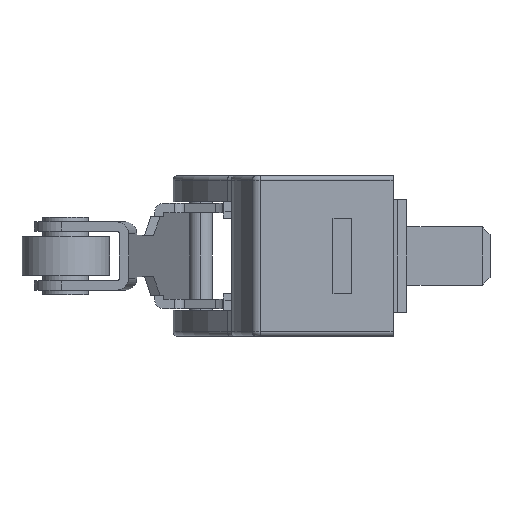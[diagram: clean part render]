
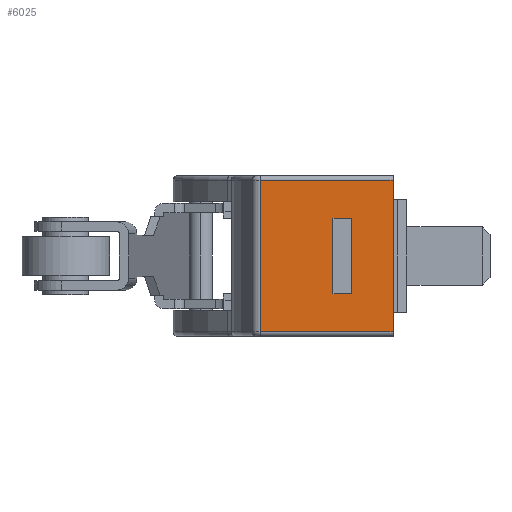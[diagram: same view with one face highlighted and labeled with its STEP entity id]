
A CAD part, left-side view. The second image highlights one B-rep face of the part: STEP entity #6025.
In plain terms, the highlighted planar face has unit normal (-1, 0, 0).
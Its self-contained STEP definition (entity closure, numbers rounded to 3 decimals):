
#1707 = CARTESIAN_POINT ( 'NONE',  ( -35.2, 0.7, 4.1 ) ) ;
#1717 = DIRECTION ( 'NONE',  ( 0., -1., 0. ) ) ;
#1718 = VECTOR ( 'NONE', #1717, 1000. ) ;
#1719 = CARTESIAN_POINT ( 'NONE',  ( -35.2, 2.7, 4.1 ) ) ;
#1720 = LINE ( 'NONE', #1719, #1718 ) ;
#2343 = CARTESIAN_POINT ( 'NONE',  ( -35.2, 2.7, 4.1 ) ) ;
#5995 = ORIENTED_EDGE ( 'NONE', *, *, #5996, .T. ) ;
#5996 = EDGE_CURVE ( 'NONE', #6042, #5997, #14351, .T. ) ;
#5997 = VERTEX_POINT ( 'NONE', #14352 ) ;
#6000 = ORIENTED_EDGE ( 'NONE', *, *, #6017, .F. ) ;
#6001 = ORIENTED_EDGE ( 'NONE', *, *, #6002, .T. ) ;
#6002 = EDGE_CURVE ( 'NONE', #5997, #6429, #14662, .T. ) ;
#6004 = EDGE_CURVE ( 'NONE', #6018, #6007, #15040, .T. ) ;
#6005 = EDGE_CURVE ( 'NONE', #6007, #6024, #15039, .T. ) ;
#6006 = EDGE_CURVE ( 'NONE', #6026, #6018, #15047, .T. ) ;
#6007 = VERTEX_POINT ( 'NONE', #15048 ) ;
#6008 = ORIENTED_EDGE ( 'NONE', *, *, #6006, .T. ) ;
#6016 = EDGE_LOOP ( 'NONE', ( #6022, #6021, #6000, #6008 ) ) ;
#6017 = EDGE_CURVE ( 'NONE', #6026, #6024, #15181, .T. ) ;
#6018 = VERTEX_POINT ( 'NONE', #15183 ) ;
#6021 = ORIENTED_EDGE ( 'NONE', *, *, #6005, .T. ) ;
#6022 = ORIENTED_EDGE ( 'NONE', *, *, #6004, .T. ) ;
#6023 = ORIENTED_EDGE ( 'NONE', *, *, #6353, .T. ) ;
#6024 = VERTEX_POINT ( 'NONE', #15101 ) ;
#6025 = ADVANCED_FACE ( 'NONE', ( #15099, #15328 ), #15327, .F. ) ;
#6026 = VERTEX_POINT ( 'NONE', #15061 ) ;
#6033 = EDGE_LOOP ( 'NONE', ( #6023, #6040, #5995, #6001 ) ) ;
#6040 = ORIENTED_EDGE ( 'NONE', *, *, #6041, .T. ) ;
#6041 = EDGE_CURVE ( 'NONE', #6352, #6042, #13804, .T. ) ;
#6042 = VERTEX_POINT ( 'NONE', #16403 ) ;
#6352 = VERTEX_POINT ( 'NONE', #1707 ) ;
#6353 = EDGE_CURVE ( 'NONE', #6429, #6352, #1720, .T. ) ;
#6429 = VERTEX_POINT ( 'NONE', #2343 ) ;
#13791 = DIRECTION ( 'NONE',  ( 0., 0., -1. ) ) ;
#13793 = CARTESIAN_POINT ( 'NONE',  ( -35.2, 0.7, 4.1 ) ) ;
#13795 = VECTOR ( 'NONE', #13791, 1000. ) ;
#13804 = LINE ( 'NONE', #13793, #13795 ) ;
#14351 = LINE ( 'NONE', #14359, #14358 ) ;
#14352 = CARTESIAN_POINT ( 'NONE',  ( -35.2, 2.7, -4.1 ) ) ;
#14357 = DIRECTION ( 'NONE',  ( 0., 1., 0. ) ) ;
#14358 = VECTOR ( 'NONE', #14357, 1000. ) ;
#14359 = CARTESIAN_POINT ( 'NONE',  ( -35.2, 2.7, -4.1 ) ) ;
#14658 = DIRECTION ( 'NONE',  ( 0., 0., 1. ) ) ;
#14659 = VECTOR ( 'NONE', #14658, 1000. ) ;
#14660 = CARTESIAN_POINT ( 'NONE',  ( -35.2, 2.7, 4.1 ) ) ;
#14662 = LINE ( 'NONE', #14660, #14659 ) ;
#15028 = DIRECTION ( 'NONE',  ( 0., 1., 0. ) ) ;
#15029 = VECTOR ( 'NONE', #15028, 1000. ) ;
#15030 = CARTESIAN_POINT ( 'NONE',  ( -35.2, 10.561, 8.2 ) ) ;
#15036 = DIRECTION ( 'NONE',  ( 0., -1., 0. ) ) ;
#15037 = VECTOR ( 'NONE', #15036, 1000. ) ;
#15038 = CARTESIAN_POINT ( 'NONE',  ( -35.2, 10.561, -8.2 ) ) ;
#15039 = LINE ( 'NONE', #15038, #15037 ) ;
#15040 = LINE ( 'NONE', #15052, #15051 ) ;
#15041 = DIRECTION ( 'NONE',  ( 0., 0., -1. ) ) ;
#15047 = LINE ( 'NONE', #15030, #15029 ) ;
#15048 = CARTESIAN_POINT ( 'NONE',  ( -35.2, 10.561, -8.2 ) ) ;
#15051 = VECTOR ( 'NONE', #15041, 1000. ) ;
#15052 = CARTESIAN_POINT ( 'NONE',  ( -35.2, 10.561, 8.7 ) ) ;
#15061 = CARTESIAN_POINT ( 'NONE',  ( -35.2, -3.8, 8.2 ) ) ;
#15062 = DIRECTION ( 'NONE',  ( 0., 0., -1. ) ) ;
#15063 = DIRECTION ( 'NONE',  ( 1., 0., 0. ) ) ;
#15064 = CARTESIAN_POINT ( 'NONE',  ( -35.2, 10.561, 8.7 ) ) ;
#15099 = FACE_OUTER_BOUND ( 'NONE', #6016, .T. ) ;
#15101 = CARTESIAN_POINT ( 'NONE',  ( -35.2, -3.8, -8.2 ) ) ;
#15181 = LINE ( 'NONE', #15194, #15192 ) ;
#15183 = CARTESIAN_POINT ( 'NONE',  ( -35.2, 10.561, 8.2 ) ) ;
#15190 = DIRECTION ( 'NONE',  ( 0., 0., -1. ) ) ;
#15192 = VECTOR ( 'NONE', #15190, 1000. ) ;
#15194 = CARTESIAN_POINT ( 'NONE',  ( -35.2, -3.8, 8.7 ) ) ;
#15325 = AXIS2_PLACEMENT_3D ( 'NONE', #15064, #15063, #15062 ) ;
#15327 = PLANE ( 'NONE',  #15325 ) ;
#15328 = FACE_BOUND ( 'NONE', #6033, .T. ) ;
#16403 = CARTESIAN_POINT ( 'NONE',  ( -35.2, 0.7, -4.1 ) ) ;
